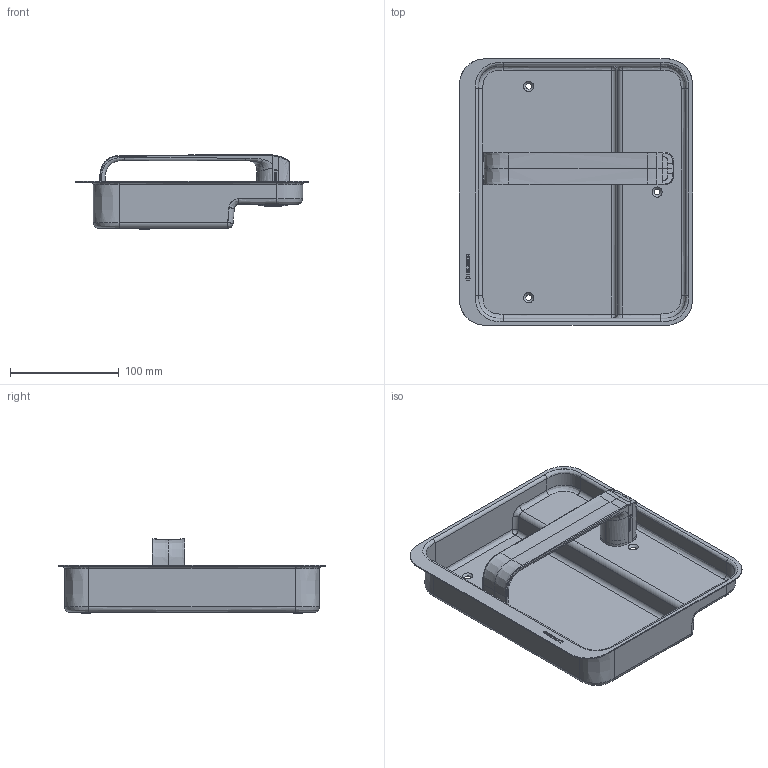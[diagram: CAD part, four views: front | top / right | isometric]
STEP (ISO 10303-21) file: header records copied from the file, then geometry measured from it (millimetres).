
FILE_DESCRIPTION(/* description */ (''),/* implementation_level */ '2;1');
FILE_NAME(/* name */ 'C:\ADSK_DMS_WS\Designs\Vorschläge\Loc Schalen\Muschel Serie 9\S9.42.D4Links\Heusser-Muschel S9.42.D4.0L.stp',/* time_stamp */ '2020-10-12T17:11:25+02:00',/* author */ ('gm'),/* organization */ (''),/* preprocessor_version */ 'ST-DEVELOPER v16.5',/* originating_system */ 'Autodesk Inventor 2017',/* authorisation */ '');
FILE_SCHEMA (('AUTOMOTIVE_DESIGN { 1 0 10303 214 3 1 1 }'));
Length unit declared in the file: millimetre
Products named in the file (1): S9.42.D4Links
Bounding box: 214 x 245 x 68.54 mm (x, y, z)
Volume: 132069.3 mm3; surface area: 182207.8 mm2
Topology: 1 solids, 2 shells, 623 faces, 1645 edges, 1066 vertices
Faces by surface type: plane 294, bspline 287, cylinder 24, cone 18
Full cylindrical faces by diameter (mm): 1.7 x2, 4.917 x1, 14.2 x1, 16 x3, 18 x1, 19 x1, 19.1 x1, 23 x1, 23.2 x1, 24 x1, 25 x1, 26 x1, 28 x1, 28.6 x1
Entity records: 32715 total; most frequent: CARTESIAN_POINT 18616, ORIENTED_EDGE 3190, DIRECTION 1921, EDGE_CURVE 1595, VERTEX_POINT 1055, LINE 905, VECTOR 905, EDGE_LOOP 718
